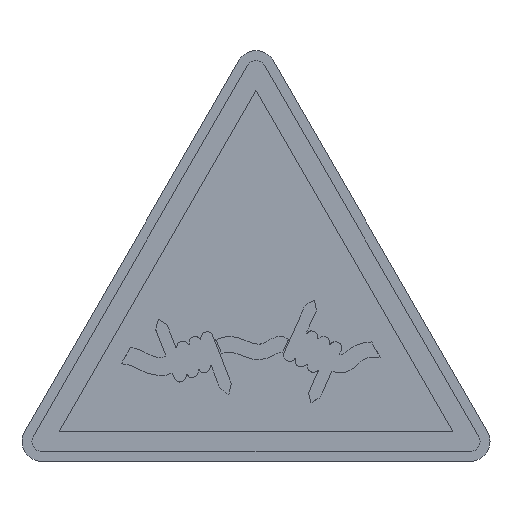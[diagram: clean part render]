
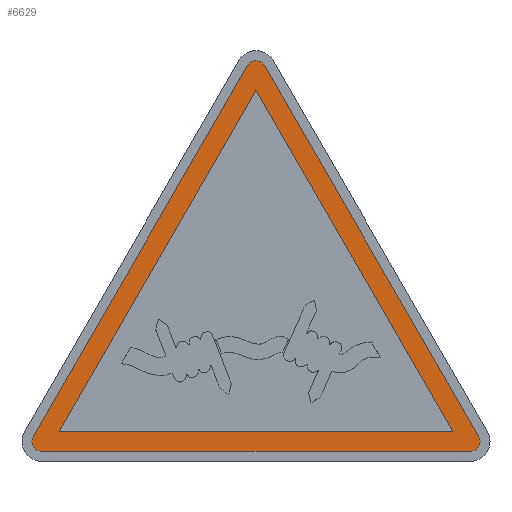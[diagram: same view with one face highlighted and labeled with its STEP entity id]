
A CAD part, top view. The second image highlights one B-rep face of the part: STEP entity #6629.
In plain terms, the highlighted planar face has unit normal (0, 0, 1).
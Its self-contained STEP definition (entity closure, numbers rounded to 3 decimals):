
#47 = DIRECTION ( 'NONE',  ( 1., 0., 0. ) ) ;
#112 = LINE ( 'NONE', #5072, #5622 ) ;
#127 = EDGE_CURVE ( 'NONE', #7159, #3317, #705, .T. ) ;
#295 = FACE_OUTER_BOUND ( 'NONE', #527, .T. ) ;
#407 = CARTESIAN_POINT ( 'NONE',  ( 21.536, 2., 0.22 ) ) ;
#527 = EDGE_LOOP ( 'NONE', ( #5185, #7810, #7251, #5059, #5534, #8837 ) ) ;
#705 = LINE ( 'NONE', #4813, #3549 ) ;
#711 = DIRECTION ( 'NONE',  ( 1., 0., 0. ) ) ;
#1049 = EDGE_CURVE ( 'NONE', #3317, #3169, #5881, .T. ) ;
#1215 = VERTEX_POINT ( 'NONE', #5341 ) ;
#1445 = CARTESIAN_POINT ( 'NONE',  ( -0.866, 39.801, 0.22 ) ) ;
#1621 = CARTESIAN_POINT ( 'NONE',  ( -19.804, 3., 0.22 ) ) ;
#1730 = DIRECTION ( 'NONE',  ( 0., 0., 1. ) ) ;
#1769 = DIRECTION ( 'NONE',  ( 1., 0., 0. ) ) ;
#2497 = VERTEX_POINT ( 'NONE', #3519 ) ;
#2574 = CARTESIAN_POINT ( 'NONE',  ( 0., 37.301, 0.22 ) ) ;
#2709 = VERTEX_POINT ( 'NONE', #7429 ) ;
#2984 = CARTESIAN_POINT ( 'NONE',  ( -22.402, 2.5, 0.22 ) ) ;
#3021 = EDGE_CURVE ( 'NONE', #1215, #2497, #6426, .T. ) ;
#3169 = VERTEX_POINT ( 'NONE', #5904 ) ;
#3176 = EDGE_CURVE ( 'NONE', #3169, #7624, #8720, .T. ) ;
#3300 = VECTOR ( 'NONE', #8068, 1000. ) ;
#3317 = VERTEX_POINT ( 'NONE', #8623 ) ;
#3413 = ORIENTED_EDGE ( 'NONE', *, *, #5842, .F. ) ;
#3491 = DIRECTION ( 'NONE',  ( -0.5, -0.866, 0. ) ) ;
#3519 = CARTESIAN_POINT ( 'NONE',  ( 19.804, 3., 0.22 ) ) ;
#3531 = DIRECTION ( 'NONE',  ( -0.5, -0.866, 0. ) ) ;
#3549 = VECTOR ( 'NONE', #4047, 1000. ) ;
#3592 = VECTOR ( 'NONE', #3491, 1000. ) ;
#3748 = AXIS2_PLACEMENT_3D ( 'NONE', #7975, #1730, #1769 ) ;
#3810 = CARTESIAN_POINT ( 'NONE',  ( -21.536, 1., 0.22 ) ) ;
#3856 = LINE ( 'NONE', #5940, #3300 ) ;
#4047 = DIRECTION ( 'NONE',  ( -0.5, 0.866, 0. ) ) ;
#4191 = AXIS2_PLACEMENT_3D ( 'NONE', #5772, #7885, #5814 ) ;
#4299 = AXIS2_PLACEMENT_3D ( 'NONE', #6238, #4862, #711 ) ;
#4363 = PLANE ( 'NONE',  #4191 ) ;
#4813 = CARTESIAN_POINT ( 'NONE',  ( 22.402, 2.5, 0.22 ) ) ;
#4838 = EDGE_CURVE ( 'NONE', #2709, #7159, #7755, .T. ) ;
#4862 = DIRECTION ( 'NONE',  ( 0., 0., 1. ) ) ;
#5059 = ORIENTED_EDGE ( 'NONE', *, *, #6038, .T. ) ;
#5072 = CARTESIAN_POINT ( 'NONE',  ( 19.804, 3., 0.22 ) ) ;
#5185 = ORIENTED_EDGE ( 'NONE', *, *, #1049, .T. ) ;
#5341 = CARTESIAN_POINT ( 'NONE',  ( -19.804, 3., 0.22 ) ) ;
#5417 = CARTESIAN_POINT ( 'NONE',  ( 0., 37.301, 0.22 ) ) ;
#5509 = LINE ( 'NONE', #5417, #3592 ) ;
#5534 = ORIENTED_EDGE ( 'NONE', *, *, #4838, .T. ) ;
#5620 = DIRECTION ( 'NONE',  ( -0.5, 0.866, 0. ) ) ;
#5622 = VECTOR ( 'NONE', #5620, 1000. ) ;
#5642 = VECTOR ( 'NONE', #3531, 1000. ) ;
#5772 = CARTESIAN_POINT ( 'NONE',  ( 0., 39.301, 0.22 ) ) ;
#5814 = DIRECTION ( 'NONE',  ( 1., 0., 0. ) ) ;
#5842 = EDGE_CURVE ( 'NONE', #6080, #1215, #5509, .T. ) ;
#5881 = CIRCLE ( 'NONE', #4299, 1. ) ;
#5904 = CARTESIAN_POINT ( 'NONE',  ( -0.866, 39.801, 0.22 ) ) ;
#5940 = CARTESIAN_POINT ( 'NONE',  ( -21.536, 1., 0.22 ) ) ;
#6038 = EDGE_CURVE ( 'NONE', #7990, #2709, #3856, .T. ) ;
#6080 = VERTEX_POINT ( 'NONE', #2574 ) ;
#6238 = CARTESIAN_POINT ( 'NONE',  ( 0., 39.301, 0.22 ) ) ;
#6335 = EDGE_CURVE ( 'NONE', #7624, #7990, #8124, .T. ) ;
#6426 = LINE ( 'NONE', #1621, #7243 ) ;
#6508 = EDGE_CURVE ( 'NONE', #2497, #6080, #112, .T. ) ;
#6575 = DIRECTION ( 'NONE',  ( 1., 0., 0. ) ) ;
#6629 = ADVANCED_FACE ( 'NONE', ( #295, #8452 ), #4363, .T. ) ;
#6726 = CARTESIAN_POINT ( 'NONE',  ( 22.402, 2.5, 0.22 ) ) ;
#6983 = EDGE_LOOP ( 'NONE', ( #7652, #3413, #7552 ) ) ;
#7159 = VERTEX_POINT ( 'NONE', #6726 ) ;
#7243 = VECTOR ( 'NONE', #47, 1000. ) ;
#7251 = ORIENTED_EDGE ( 'NONE', *, *, #6335, .T. ) ;
#7300 = AXIS2_PLACEMENT_3D ( 'NONE', #407, #8088, #6575 ) ;
#7429 = CARTESIAN_POINT ( 'NONE',  ( 21.536, 1., 0.22 ) ) ;
#7552 = ORIENTED_EDGE ( 'NONE', *, *, #6508, .F. ) ;
#7624 = VERTEX_POINT ( 'NONE', #2984 ) ;
#7652 = ORIENTED_EDGE ( 'NONE', *, *, #3021, .F. ) ;
#7755 = CIRCLE ( 'NONE', #7300, 1. ) ;
#7810 = ORIENTED_EDGE ( 'NONE', *, *, #3176, .T. ) ;
#7885 = DIRECTION ( 'NONE',  ( 0., 0., 1. ) ) ;
#7975 = CARTESIAN_POINT ( 'NONE',  ( -21.536, 2., 0.22 ) ) ;
#7990 = VERTEX_POINT ( 'NONE', #3810 ) ;
#8068 = DIRECTION ( 'NONE',  ( 1., 0., 0. ) ) ;
#8088 = DIRECTION ( 'NONE',  ( 0., 0., 1. ) ) ;
#8124 = CIRCLE ( 'NONE', #3748, 1. ) ;
#8452 = FACE_BOUND ( 'NONE', #6983, .T. ) ;
#8623 = CARTESIAN_POINT ( 'NONE',  ( 0.866, 39.801, 0.22 ) ) ;
#8720 = LINE ( 'NONE', #1445, #5642 ) ;
#8837 = ORIENTED_EDGE ( 'NONE', *, *, #127, .T. ) ;
